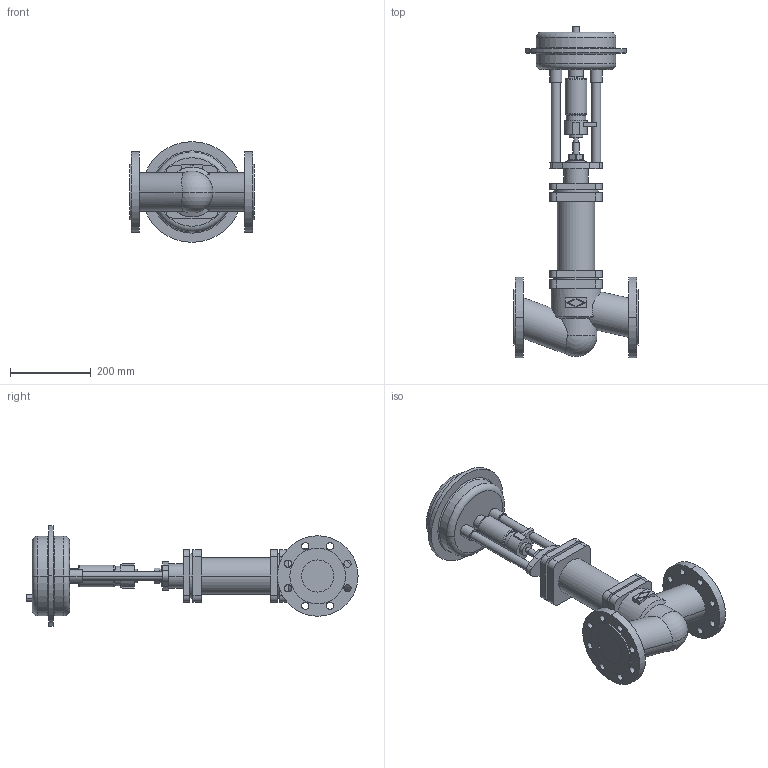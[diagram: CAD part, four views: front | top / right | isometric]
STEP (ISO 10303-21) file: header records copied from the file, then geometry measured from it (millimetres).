
FILE_DESCRIPTION(('OneSpaceDesigner STEP Export'),'2;1');
FILE_NAME('c000000380.stp','2005-12-12T10:37:36',(''),(''),'OneSpace Designer STEP processor for AP203 (Solid Model)','OneSpace Designer 13.20A 18-Aug-2005 (C) CoCreate Software GmbH','');
FILE_SCHEMA(('CONFIG_CONTROL_DESIGN'));
Length unit declared in the file: millimetre
Products named in the file (1): 1
Bounding box: 310 x 823.7 x 250 mm (x, y, z)
Volume: 10356909.5 mm3; surface area: 647808.4 mm2
Topology: 1 solids, 1 shells, 234 faces, 582 edges, 380 vertices
Faces by surface type: cylinder 120, plane 90, torus 16, cone 6, sphere 2
Entity records: 6636 total; most frequent: CARTESIAN_POINT 1322, ORIENTED_EDGE 1160, DIRECTION 989, EDGE_CURVE 580, VERTEX_POINT 380, AXIS2_PLACEMENT_3D 356, EDGE_LOOP 302, VECTOR 277
